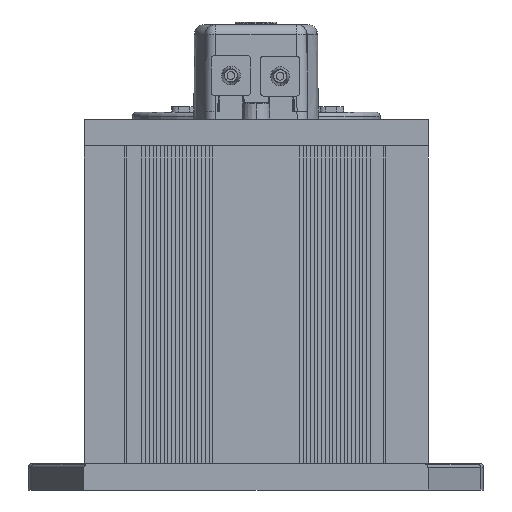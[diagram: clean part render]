
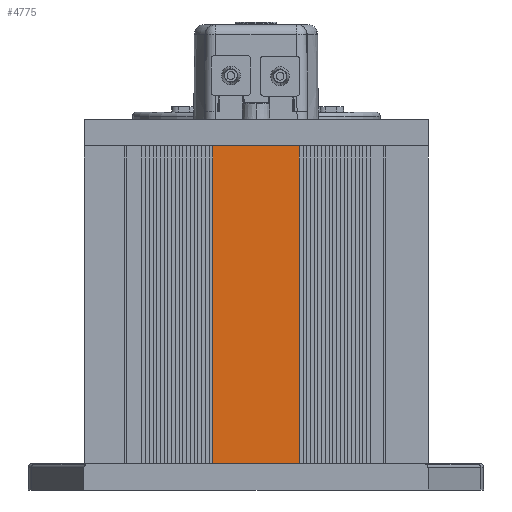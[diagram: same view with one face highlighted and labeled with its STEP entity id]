
A CAD part, left-side view. The second image highlights one B-rep face of the part: STEP entity #4775.
In plain terms, the highlighted planar face has unit normal (-1, 0, 0).
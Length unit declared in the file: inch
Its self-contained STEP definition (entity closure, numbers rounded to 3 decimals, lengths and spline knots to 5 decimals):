
#4775=ADVANCED_FACE('',(#10574),#10575,.T.);
#10574=FACE_OUTER_BOUND('',#19750,.T.);
#10575=PLANE('',#19751);
#19750=EDGE_LOOP('',(#33932,#33933,#33934,#33935));
#19751=AXIS2_PLACEMENT_3D('',#33936,#33937,#33938);
#33932=ORIENTED_EDGE('',*,*,#47669,.T.);
#33933=ORIENTED_EDGE('',*,*,#47900,.F.);
#33934=ORIENTED_EDGE('',*,*,#47777,.F.);
#33935=ORIENTED_EDGE('',*,*,#47898,.T.);
#33936=CARTESIAN_POINT('',(-12.05419,3.06328,1.61092));
#33937=DIRECTION('',(-1.0,0.,-0.0));
#33938=DIRECTION('',(0.,1.0,0.0));
#47669=EDGE_CURVE('',#57896,#57894,#57897,.T.);
#47777=EDGE_CURVE('',#58096,#58098,#58099,.T.);
#47898=EDGE_CURVE('',#58096,#57896,#58262,.T.);
#47900=EDGE_CURVE('',#58098,#57894,#58264,.T.);
#57894=VERTEX_POINT('',#75925);
#57896=VERTEX_POINT('',#75928);
#57897=LINE('',#75929,#75930);
#58096=VERTEX_POINT('',#76230);
#58098=VERTEX_POINT('',#76233);
#58099=LINE('',#76234,#76235);
#58262=LINE('',#76480,#76481);
#58264=LINE('',#76483,#76484);
#75925=CARTESIAN_POINT('',(-12.05419,2.6552,-1.38908));
#75928=CARTESIAN_POINT('',(-12.05419,3.47135,-1.38908));
#75929=CARTESIAN_POINT('',(-12.05419,2.86808,-1.38908));
#75930=VECTOR('',#88373,1.0);
#76230=CARTESIAN_POINT('',(-12.05419,3.47135,1.61092));
#76233=CARTESIAN_POINT('',(-12.05419,2.6552,1.61092));
#76234=CARTESIAN_POINT('',(-12.05419,2.86808,1.61092));
#76235=VECTOR('',#88476,1.0);
#76480=CARTESIAN_POINT('',(-12.05419,3.47135,1.61092));
#76481=VECTOR('',#88559,1.0);
#76483=CARTESIAN_POINT('',(-12.05419,2.6552,1.61092));
#76484=VECTOR('',#88560,1.0);
#88373=DIRECTION('',(0.,-1.0,0.0));
#88476=DIRECTION('',(0.,-1.0,0.0));
#88559=DIRECTION('',(0.0,0.0,-1.0));
#88560=DIRECTION('',(0.0,0.0,-1.0));
